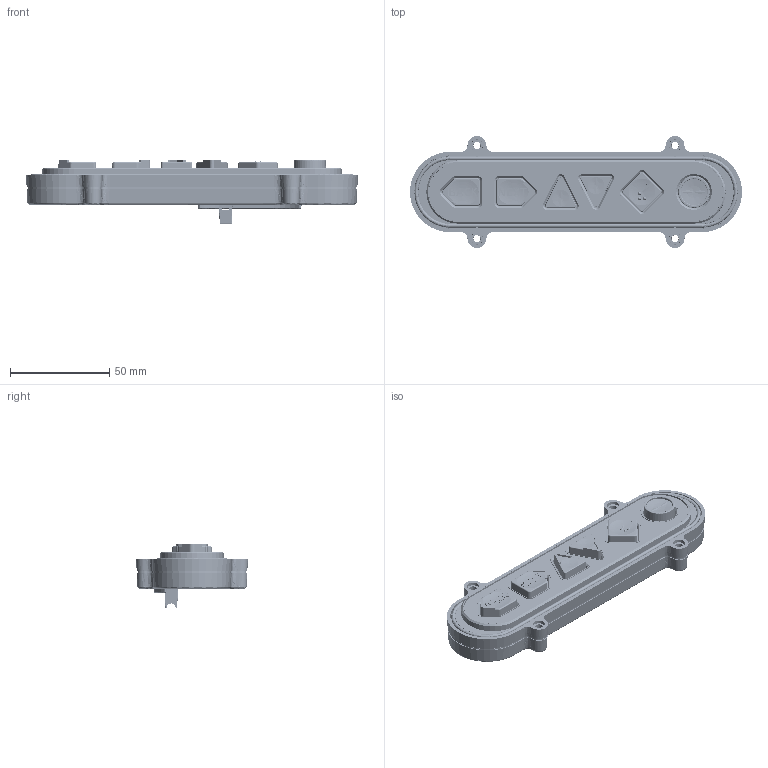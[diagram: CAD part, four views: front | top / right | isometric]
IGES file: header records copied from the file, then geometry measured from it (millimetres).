
Start section: SolidWorks IGES file using analytic representation for surfaces
Global section: file name: C:\Users\rayc.STORMINTERFACE\Desktop\Nav-Bar Mini Module.IGS; native system: SolidWorks 2018; preprocessor: SolidWorks 2018; author: rayc; date: 191127.152750; units: millimetre
Bounding box: 167.6 x 56.5 x 32.25 mm (x, y, z)
Surface area: 73529.5 mm2 (no closed solid volume)
Topology: 0 solids, 0 shells, 3950 faces, 38742 edges, 38659 vertices
Faces by surface type: bspline 2601, revolution 1349
